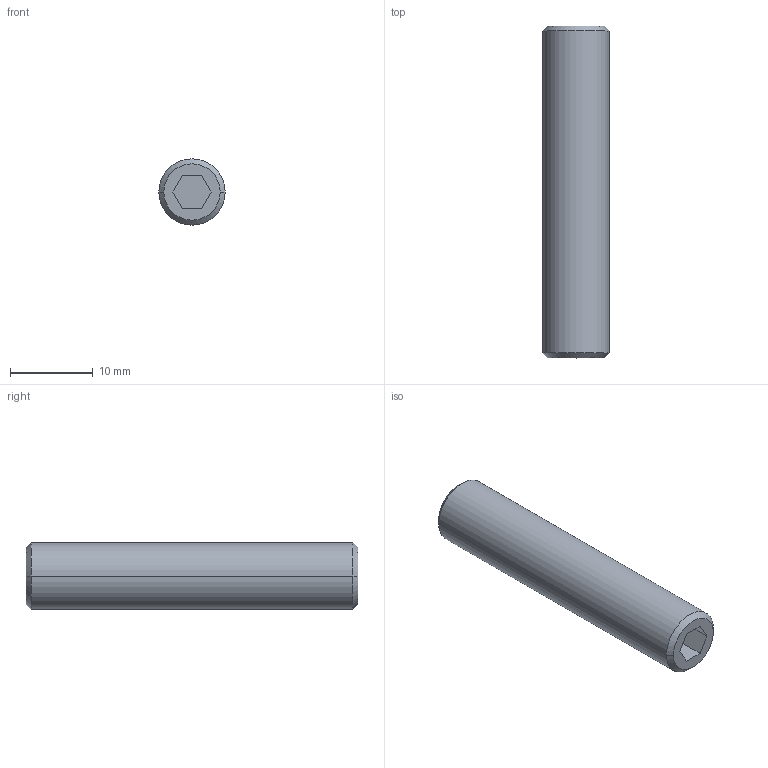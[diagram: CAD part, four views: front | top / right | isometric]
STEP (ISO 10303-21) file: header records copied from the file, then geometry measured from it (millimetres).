
FILE_DESCRIPTION((''),'2;1');
FILE_NAME('VTGEI0840','2002-12-27T',('Lipro doo'),('Lipro d.o.o.'),'PRO/ENGINEER BY PARAMETRIC TECHNOLOGY CORPORATION, 2001150','PRO/ENGINEER BY PARAMETRIC TECHNOLOGY CORPORATION, 2001150','');
FILE_SCHEMA(('CONFIG_CONTROL_DESIGN'));
Length unit declared in the file: millimetre
Products named in the file (1): VTGEI0840
Bounding box: 8 x 40 x 8 mm (x, y, z)
Volume: 1960.5 mm3; surface area: 1983.3 mm2
Topology: 1 solids, 2 shells, 17 faces, 38 edges, 24 vertices
Faces by surface type: plane 9, cone 4, cylinder 4
Entity records: 516 total; most frequent: DIRECTION 86, CARTESIAN_POINT 80, ORIENTED_EDGE 72, EDGE_CURVE 38, AXIS2_PLACEMENT_3D 30, VECTOR 26, LINE 26, VERTEX_POINT 24
